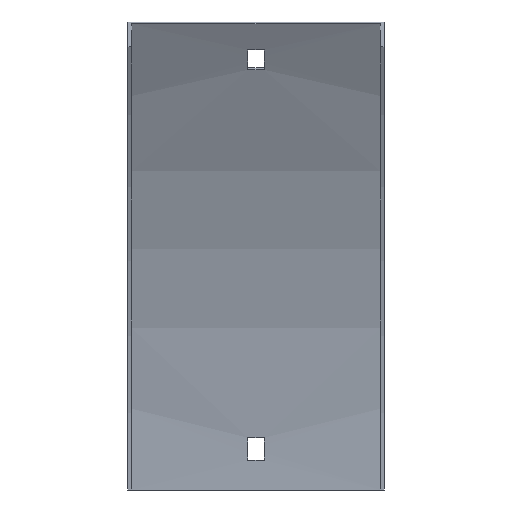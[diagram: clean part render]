
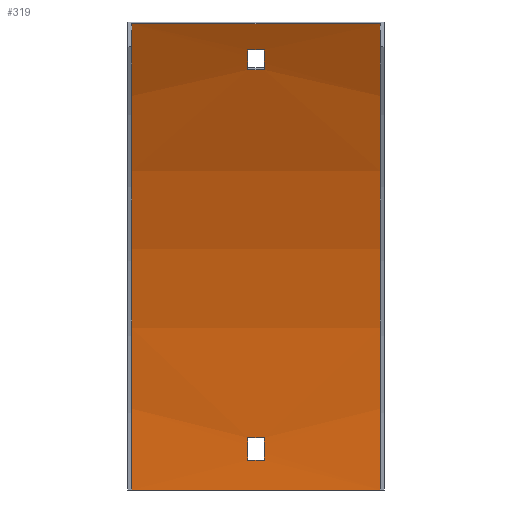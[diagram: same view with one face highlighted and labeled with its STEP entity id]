
A CAD part, front view. The second image highlights one B-rep face of the part: STEP entity #319.
In plain terms, the highlighted cylindrical face has radius 375 mm (diameter 750 mm), a partial arc.
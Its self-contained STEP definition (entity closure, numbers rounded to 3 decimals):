
#14 = VERTEX_POINT ( 'NONE', #163 ) ;
#26 = CARTESIAN_POINT ( 'NONE',  ( 50., -51.74, 187.5 ) ) ;
#27 = EDGE_CURVE ( 'NONE', #401, #56, #422, .T. ) ;
#28 = DIRECTION ( 'NONE',  ( 1., 0., 0. ) ) ;
#33 = ORIENTED_EDGE ( 'NONE', *, *, #415, .T. ) ;
#34 = VECTOR ( 'NONE', #197, 1000. ) ;
#47 = VECTOR ( 'NONE', #167, 1000. ) ;
#56 = VERTEX_POINT ( 'NONE', #26 ) ;
#59 = FACE_BOUND ( 'NONE', #582, .T. ) ;
#61 = DIRECTION ( 'NONE',  ( 0., 0., -1. ) ) ;
#71 = EDGE_CURVE ( 'NONE', #420, #456, #579, .T. ) ;
#75 = ORIENTED_EDGE ( 'NONE', *, *, #240, .T. ) ;
#110 = EDGE_CURVE ( 'NONE', #170, #368, #490, .T. ) ;
#117 = DIRECTION ( 'NONE',  ( 0., 0., 1. ) ) ;
#118 = ORIENTED_EDGE ( 'NONE', *, *, #71, .F. ) ;
#125 = CIRCLE ( 'NONE', #285, 375. ) ;
#129 = LINE ( 'NONE', #471, #335 ) ;
#130 = ORIENTED_EDGE ( 'NONE', *, *, #403, .F. ) ;
#142 = EDGE_CURVE ( 'NONE', #558, #190, #129, .T. ) ;
#157 = CARTESIAN_POINT ( 'NONE',  ( 51.5, -2.088, 21. ) ) ;
#161 = CARTESIAN_POINT ( 'NONE',  ( 51.5, -376.5, 0. ) ) ;
#163 = CARTESIAN_POINT ( 'NONE',  ( -3.25, -41.75, 169.019 ) ) ;
#167 = DIRECTION ( 'NONE',  ( -1., 0., 0. ) ) ;
#170 = VERTEX_POINT ( 'NONE', #604 ) ;
#177 = CARTESIAN_POINT ( 'NONE',  ( 50., -1.5, 0. ) ) ;
#187 = DIRECTION ( 'NONE',  ( 0., 0., -1. ) ) ;
#190 = VERTEX_POINT ( 'NONE', #567 ) ;
#192 = LINE ( 'NONE', #333, #379 ) ;
#195 = ORIENTED_EDGE ( 'NONE', *, *, #142, .F. ) ;
#197 = DIRECTION ( 'NONE',  ( -1., 0., 0. ) ) ;
#201 = CIRCLE ( 'NONE', #292, 375. ) ;
#204 = DIRECTION ( 'NONE',  ( -1., 0., 0. ) ) ;
#205 = DIRECTION ( 'NONE',  ( 1., 0., 0. ) ) ;
#213 = EDGE_CURVE ( 'NONE', #56, #356, #436, .T. ) ;
#216 = CARTESIAN_POINT ( 'NONE',  ( -50., -1.5, 0. ) ) ;
#219 = DIRECTION ( 'NONE',  ( 0., 0., -1. ) ) ;
#228 = CARTESIAN_POINT ( 'NONE',  ( -3.25, -1.692, 12. ) ) ;
#232 = DIRECTION ( 'NONE',  ( 1., 0., 0. ) ) ;
#234 = CARTESIAN_POINT ( 'NONE',  ( 3.25, -376.5, 0. ) ) ;
#240 = EDGE_CURVE ( 'NONE', #14, #423, #201, .T. ) ;
#256 = CARTESIAN_POINT ( 'NONE',  ( 3.25, -41.75, 169.019 ) ) ;
#265 = CARTESIAN_POINT ( 'NONE',  ( -3.25, -376.5, 0. ) ) ;
#268 = EDGE_LOOP ( 'NONE', ( #130, #409, #404, #311 ) ) ;
#276 = DIRECTION ( 'NONE',  ( -1., 0., 0. ) ) ;
#278 = DIRECTION ( 'NONE',  ( 0., 0., 1. ) ) ;
#285 = AXIS2_PLACEMENT_3D ( 'NONE', #234, #571, #187 ) ;
#292 = AXIS2_PLACEMENT_3D ( 'NONE', #295, #205, #219 ) ;
#295 = CARTESIAN_POINT ( 'NONE',  ( -3.25, -376.5, 0. ) ) ;
#311 = ORIENTED_EDGE ( 'NONE', *, *, #213, .T. ) ;
#312 = DIRECTION ( 'NONE',  ( 0., 0., 1. ) ) ;
#313 = AXIS2_PLACEMENT_3D ( 'NONE', #445, #581, #459 ) ;
#319 = ADVANCED_FACE ( 'NONE', ( #59, #591, #399 ), #345, .F. ) ;
#330 = DIRECTION ( 'NONE',  ( -1., 0., 0. ) ) ;
#333 = CARTESIAN_POINT ( 'NONE',  ( 51.5, -41.75, 169.019 ) ) ;
#335 = VECTOR ( 'NONE', #232, 1000. ) ;
#337 = CARTESIAN_POINT ( 'NONE',  ( -50., -376.5, 0. ) ) ;
#345 = CYLINDRICAL_SURFACE ( 'NONE', #598, 375. ) ;
#346 = AXIS2_PLACEMENT_3D ( 'NONE', #337, #484, #61 ) ;
#356 = VERTEX_POINT ( 'NONE', #439 ) ;
#368 = VERTEX_POINT ( 'NONE', #256 ) ;
#379 = VECTOR ( 'NONE', #330, 1000. ) ;
#390 = EDGE_LOOP ( 'NONE', ( #461, #75, #33, #394 ) ) ;
#394 = ORIENTED_EDGE ( 'NONE', *, *, #110, .T. ) ;
#399 = FACE_BOUND ( 'NONE', #390, .T. ) ;
#401 = VERTEX_POINT ( 'NONE', #529 ) ;
#403 = EDGE_CURVE ( 'NONE', #509, #356, #569, .T. ) ;
#404 = ORIENTED_EDGE ( 'NONE', *, *, #27, .T. ) ;
#409 = ORIENTED_EDGE ( 'NONE', *, *, #512, .F. ) ;
#415 = EDGE_CURVE ( 'NONE', #423, #170, #449, .T. ) ;
#417 = CARTESIAN_POINT ( 'NONE',  ( 3.25, -376.5, 0. ) ) ;
#420 = VERTEX_POINT ( 'NONE', #547 ) ;
#422 = CIRCLE ( 'NONE', #313, 375. ) ;
#423 = VERTEX_POINT ( 'NONE', #464 ) ;
#436 = LINE ( 'NONE', #438, #34 ) ;
#438 = CARTESIAN_POINT ( 'NONE',  ( 50., -51.74, 187.5 ) ) ;
#439 = CARTESIAN_POINT ( 'NONE',  ( -50., -51.74, 187.5 ) ) ;
#445 = CARTESIAN_POINT ( 'NONE',  ( 50., -376.5, 0. ) ) ;
#447 = CARTESIAN_POINT ( 'NONE',  ( 51.5, -45.907, 177.012 ) ) ;
#449 = LINE ( 'NONE', #447, #453 ) ;
#453 = VECTOR ( 'NONE', #28, 1000. ) ;
#456 = VERTEX_POINT ( 'NONE', #596 ) ;
#459 = DIRECTION ( 'NONE',  ( 0., 0., -1. ) ) ;
#461 = ORIENTED_EDGE ( 'NONE', *, *, #584, .T. ) ;
#464 = CARTESIAN_POINT ( 'NONE',  ( -3.25, -45.907, 177.012 ) ) ;
#471 = CARTESIAN_POINT ( 'NONE',  ( 51.5, -1.692, 12. ) ) ;
#484 = DIRECTION ( 'NONE',  ( 1., 0., 0. ) ) ;
#486 = EDGE_CURVE ( 'NONE', #456, #558, #588, .T. ) ;
#490 = CIRCLE ( 'NONE', #587, 375. ) ;
#503 = AXIS2_PLACEMENT_3D ( 'NONE', #265, #506, #312 ) ;
#506 = DIRECTION ( 'NONE',  ( -1., 0., 0. ) ) ;
#509 = VERTEX_POINT ( 'NONE', #216 ) ;
#512 = EDGE_CURVE ( 'NONE', #401, #509, #600, .T. ) ;
#529 = CARTESIAN_POINT ( 'NONE',  ( 50., -1.5, 0. ) ) ;
#543 = ORIENTED_EDGE ( 'NONE', *, *, #603, .F. ) ;
#547 = CARTESIAN_POINT ( 'NONE',  ( 3.25, -2.088, 21. ) ) ;
#558 = VERTEX_POINT ( 'NONE', #228 ) ;
#566 = ORIENTED_EDGE ( 'NONE', *, *, #486, .F. ) ;
#567 = CARTESIAN_POINT ( 'NONE',  ( 3.25, -1.692, 12. ) ) ;
#569 = CIRCLE ( 'NONE', #346, 375. ) ;
#571 = DIRECTION ( 'NONE',  ( 1., 0., 0. ) ) ;
#576 = VECTOR ( 'NONE', #276, 1000. ) ;
#579 = LINE ( 'NONE', #157, #47 ) ;
#581 = DIRECTION ( 'NONE',  ( 1., 0., 0. ) ) ;
#582 = EDGE_LOOP ( 'NONE', ( #566, #118, #543, #195 ) ) ;
#584 = EDGE_CURVE ( 'NONE', #368, #14, #192, .T. ) ;
#587 = AXIS2_PLACEMENT_3D ( 'NONE', #417, #607, #278 ) ;
#588 = CIRCLE ( 'NONE', #503, 375. ) ;
#591 = FACE_OUTER_BOUND ( 'NONE', #268, .T. ) ;
#596 = CARTESIAN_POINT ( 'NONE',  ( -3.25, -2.088, 21. ) ) ;
#598 = AXIS2_PLACEMENT_3D ( 'NONE', #161, #204, #117 ) ;
#600 = LINE ( 'NONE', #177, #576 ) ;
#603 = EDGE_CURVE ( 'NONE', #190, #420, #125, .T. ) ;
#604 = CARTESIAN_POINT ( 'NONE',  ( 3.25, -45.907, 177.012 ) ) ;
#607 = DIRECTION ( 'NONE',  ( -1., 0., 0. ) ) ;
